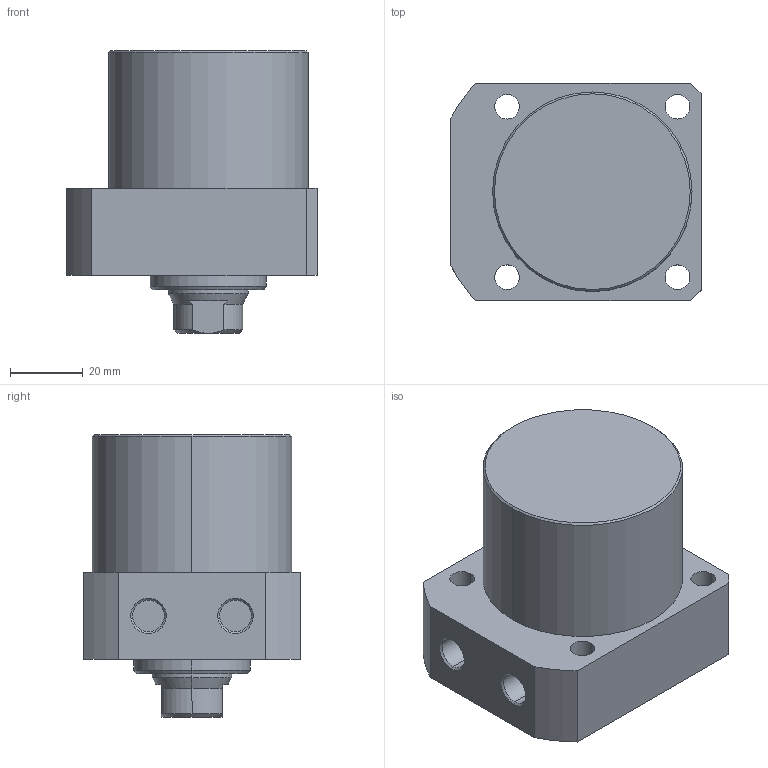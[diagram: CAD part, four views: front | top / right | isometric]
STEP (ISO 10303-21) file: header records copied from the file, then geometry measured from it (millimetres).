
FILE_DESCRIPTION (( 'STEP AP203' ), '1' );
FILE_NAME ('CLLR-055CA-025.STEP', '2019-12-19T07:22:58', ( '' ), ( '' ), 'SwSTEP 2.0', 'SolidWorks 2015', '' );
FILE_SCHEMA (( 'CONFIG_CONTROL_DESIGN' ));
Length unit declared in the file: millimetre
Products named in the file (1): CLLR-055CA-025
Bounding box: 69 x 60 x 78 mm (x, y, z)
Volume: 187918.3 mm3; surface area: 24748 mm2
Topology: 1 solids, 1 shells, 65 faces, 151 edges, 94 vertices
Faces by surface type: cylinder 29, plane 19, cone 17
Entity records: 1967 total; most frequent: CARTESIAN_POINT 349, DIRECTION 348, ORIENTED_EDGE 298, EDGE_CURVE 149, AXIS2_PLACEMENT_3D 141, VERTEX_POINT 94, EDGE_LOOP 81, CIRCLE 75
